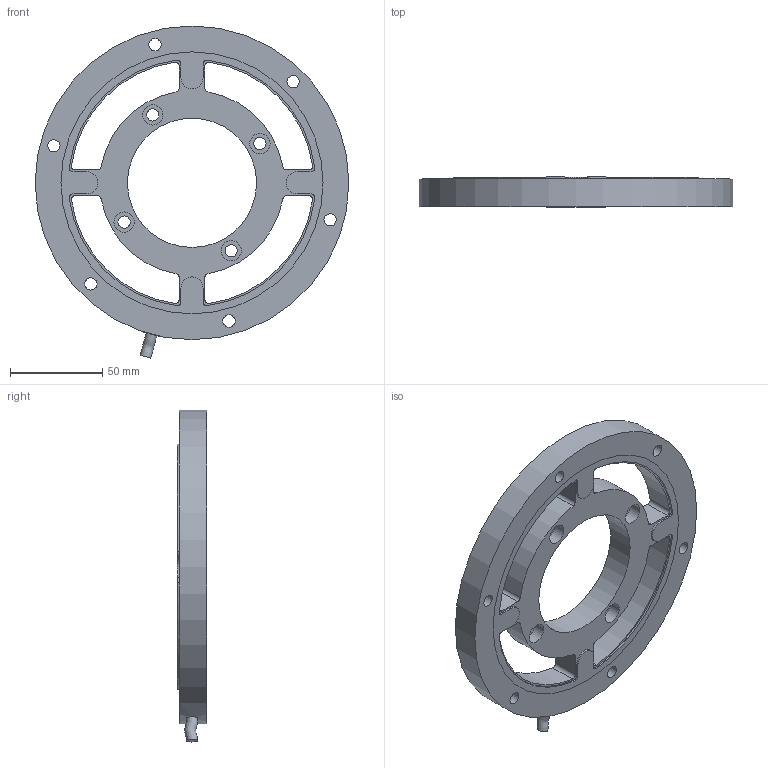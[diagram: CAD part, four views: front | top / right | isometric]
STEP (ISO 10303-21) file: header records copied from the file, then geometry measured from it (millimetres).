
FILE_DESCRIPTION(/* description */ ('Alibre Inc.'),/* implementation_level */ '2;1');
FILE_NAME(/* name */ 'export0',/* time_stamp */ '2010-10-19T14:43:55+02:00',/* author */ (''),/* organization */ (''),/* preprocessor_version */ 'ST-DEVELOPER v10',/* originating_system */ 'Alibre',/* authorisation */ '');
FILE_SCHEMA (('AUTOMOTIVE_DESIGN'));
Length unit declared in the file: centimetre
Bounding box: 170 x 16 x 179.93 mm (x, y, z)
Volume: 202358.2 mm3; surface area: 91401.7 mm2
Topology: 4 solids, 4 shells, 220 faces, 636 edges, 427 vertices
Faces by surface type: cylinder 149, plane 70, bspline 1
Full cylindrical faces by diameter (mm): 3 x4, 6 x2, 6.6 x4, 6.647 x6, 11 x4, 70 x1, 142 x2, 170 x1
Entity records: 7463 total; most frequent: CARTESIAN_POINT 1497, DIRECTION 1243, ORIENTED_EDGE 1196, EDGE_CURVE 598, AXIS2_PLACEMENT_3D 512, VERTEX_POINT 413, CIRCLE 291, EDGE_LOOP 291
